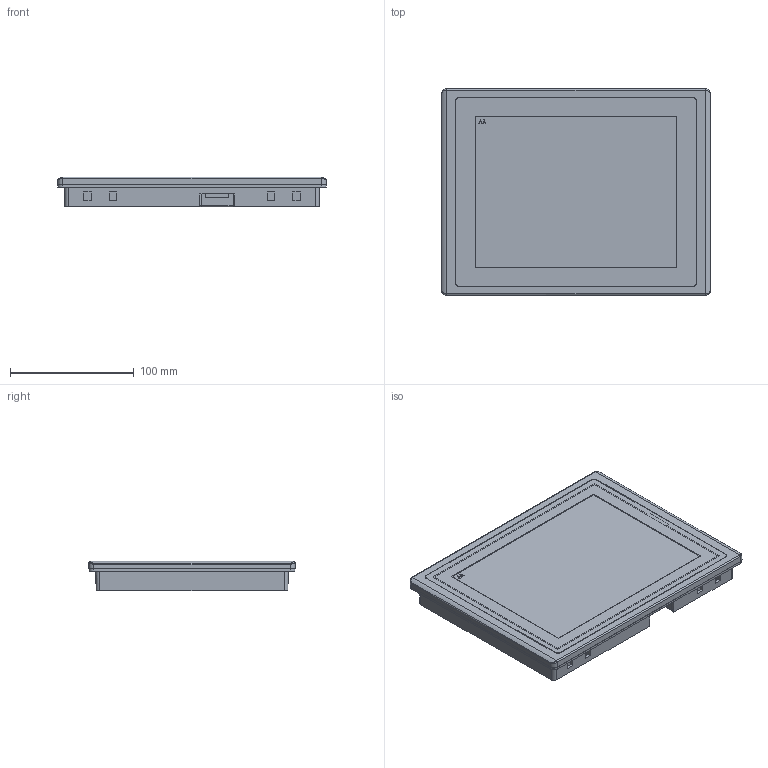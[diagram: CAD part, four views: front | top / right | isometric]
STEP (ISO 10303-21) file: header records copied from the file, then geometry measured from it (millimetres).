
FILE_DESCRIPTION((''),'2;1');
FILE_NAME('3D-DMT80600L080-15WT_ASM','2018-12-04T',('Administrator'),(''),'PRO/ENGINEER BY PARAMETRIC TECHNOLOGY CORPORATION, 2008380','PRO/ENGINEER BY PARAMETRIC TECHNOLOGY CORPORATION, 2008380','');
FILE_SCHEMA(('CONFIG_CONTROL_DESIGN'));
Length unit declared in the file: millimetre
Products named in the file (1): 3D-DMT80600L080-15WT_ASM
Bounding box: 217.4 x 166.8 x 24 mm (x, y, z)
Volume: 395908.9 mm3; surface area: 354252 mm2
Topology: 2 solids, 6 shells, 1190 faces, 3722 edges, 2453 vertices
Faces by surface type: plane 887, cylinder 255, cone 24, bspline 18, sphere 4, torus 2
Entity records: 46128 total; most frequent: CARTESIAN_POINT 9012, ORIENTED_EDGE 7436, DIRECTION 6387, EDGE_CURVE 3718, VECTOR 3029, LINE 3029, VERTEX_POINT 2453, AXIS2_PLACEMENT_3D 1679
